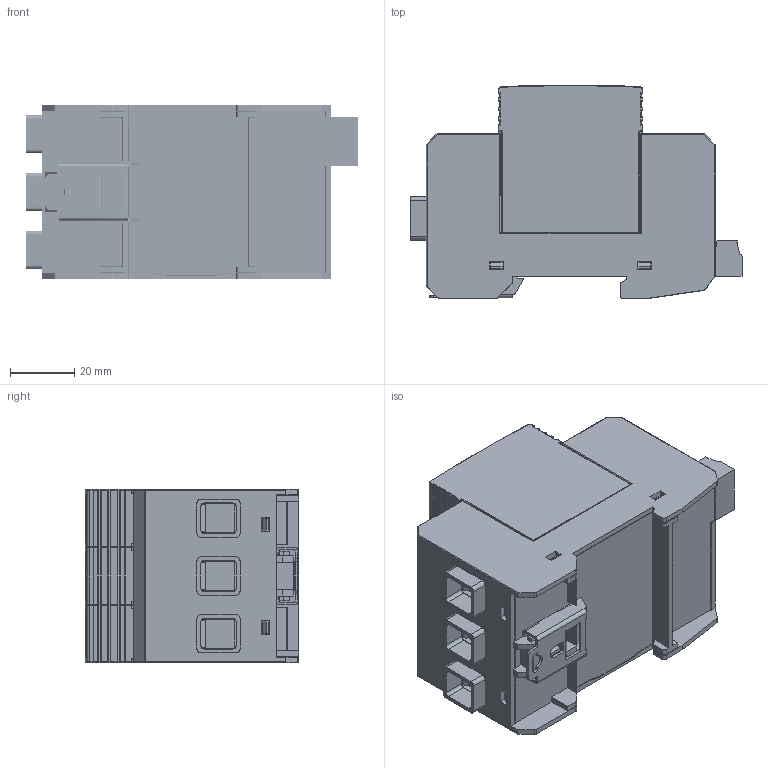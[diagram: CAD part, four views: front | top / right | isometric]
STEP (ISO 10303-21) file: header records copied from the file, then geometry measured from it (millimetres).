
FILE_DESCRIPTION((''),'2;1');
FILE_NAME('SD20RXXXL312PV','2023-08-11T16:06:03',('youlianqiao'),(''),'CREO PARAMETRIC BY PTC INC, 2022073','CREO PARAMETRIC BY PTC INC, 2022073','');
FILE_SCHEMA(('CONFIG_CONTROL_DESIGN'));
Products named in the file (1): SD20RXXXL312PV
Bounding box: 103.4 x 66.5 x 54 mm (x, y, z)
Surface area: 119035.4 mm2
Topology: 11 solids, 15 shells, 3728 faces, 10398 edges, 6495 vertices
Faces by surface type: plane 2198, cylinder 944, bspline 198, torus 171, sphere 127, cone 90
Entity records: 152637 total; most frequent: CARTESIAN_POINT 59670, ORIENTED_EDGE 20458, DIRECTION 17753, EDGE_CURVE 10239, VECTOR 7201, LINE 7201, VERTEX_POINT 6552, AXIS2_PLACEMENT_3D 5276
